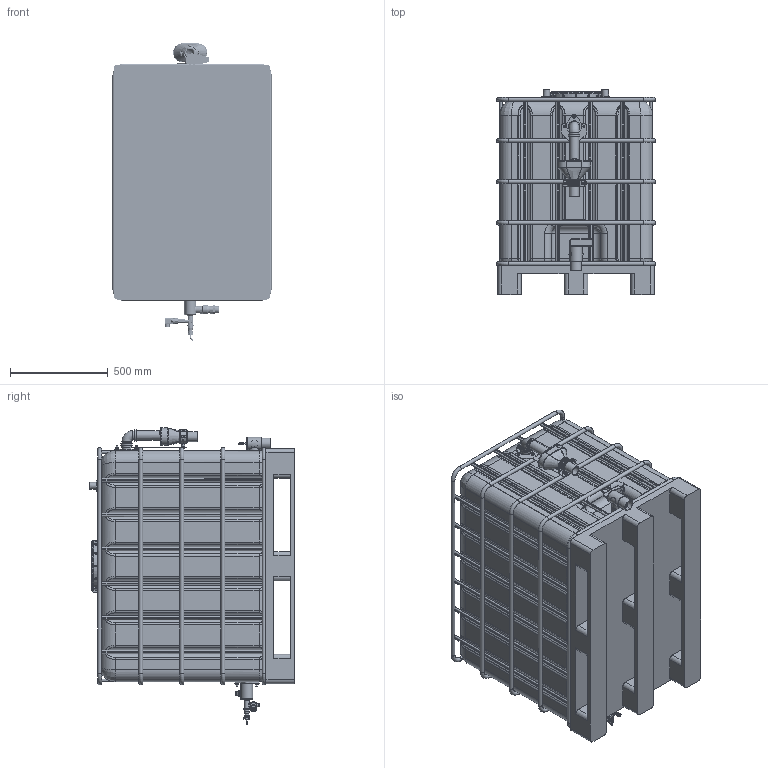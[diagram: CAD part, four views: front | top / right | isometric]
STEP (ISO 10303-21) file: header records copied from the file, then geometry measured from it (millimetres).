
FILE_DESCRIPTION(/* description */ (''),/* implementation_level */ '2;1');
FILE_NAME(/* name */ 'C:\VLTWRK\Inventor\Expansion\elko-mat\Multicontrol\MCA\MCA-G640.stp',/* time_stamp */ '2016-01-29T09:21:05+01:00',/* author */ ('Walder'),/* organization */ (''),/* preprocessor_version */ 'ST-DEVELOPER v16.1',/* originating_system */ 'Autodesk Inventor 2016',/* authorisation */ '');
FILE_SCHEMA (('AUTOMOTIVE_DESIGN { 1 0 10303 214 3 1 1 }'));
Products named in the file (1): MCA-G640
Bounding box: 813 x 1046 x 1518.57 mm (x, y, z)
Surface area: 14143626.7 mm2
Topology: 26 solids, 27 shells, 4127 faces, 11292 edges, 7145 vertices
Faces by surface type: plane 1648, cylinder 1433, bspline 535, torus 317, cone 174, sphere 20
Full cylindrical faces by diameter (mm): 2.729 x1, 3 x2, 4 x1, 4.917 x1, 5 x1, 5.459 x3, 5.5 x1, 6 x9, 6.5 x1, 6.647 x1, 7 x5, 7.323 x1, 7.5 x2, 8 x16, 8.376 x1, 8.4 x5, 9 x5, 10 x13, 11 x1, 11.1 x1, 11.445 x3, 11.5 x3, 12 x11, 13 x2, 13.157 x1, 13.5 x1, 15.7 x2, 16 x12, 16.5 x1, 18.631 x1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
Entity records: 270781 total; most frequent: CARTESIAN_POINT 169744, ORIENTED_EDGE 21304, DIRECTION 17874, EDGE_CURVE 10642, VERTEX_POINT 6958, AXIS2_PLACEMENT_3D 6396, LINE 5082, VECTOR 5082
